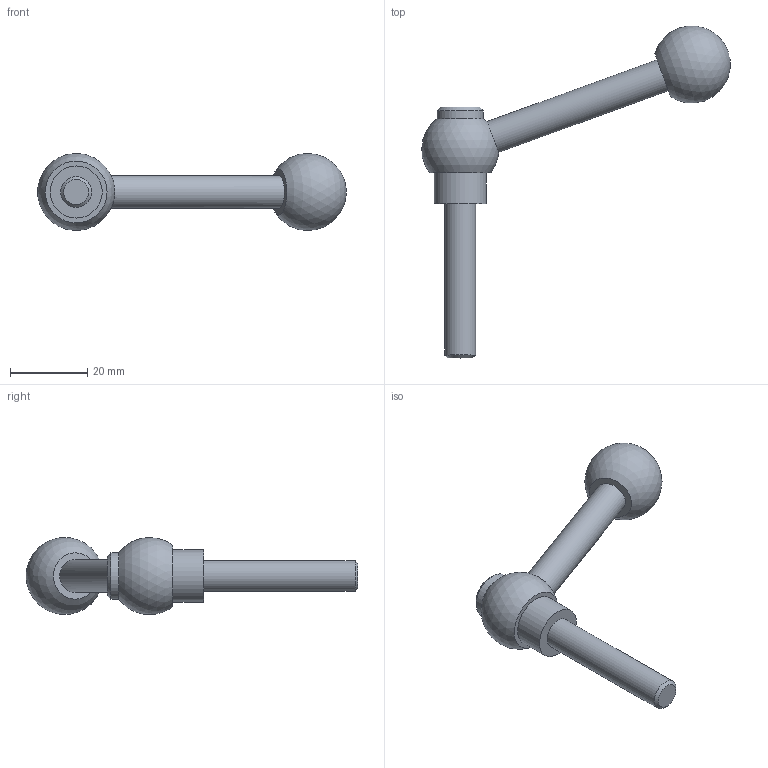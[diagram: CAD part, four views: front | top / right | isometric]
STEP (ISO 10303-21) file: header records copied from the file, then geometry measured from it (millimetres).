
FILE_DESCRIPTION( ( 'STEP AP203' ), '1' );
FILE_NAME( 'C:/Temp/Ganter_Step_05_03_2020/data/2_1/gn_6337_3/gn_6337_3_ms/gn_6337_3_ms_n/Adjustable clamping lever with bolt GN 6337.3-20-M8-40-N.stp', '2020-03-05T11:41:17', ( 'License CC BY-ND 4.0' ), ( 'CADENAS' ), ' ', 'PARTsolutions', ' ' );
FILE_SCHEMA( ( 'CONFIG_CONTROL_DESIGN' ) );
Length unit declared in the file: millimetre
Products named in the file (1): _Adjustable clamping lever with bolt GN 6337.3-20-M8-40-N
Bounding box: 79.86 x 86 x 19.99 mm (x, y, z)
Volume: 13809.1 mm3; surface area: 4995 mm2
Topology: 1 solids, 1 shells, 13 faces, 22 edges, 14 vertices
Faces by surface type: plane 5, cylinder 4, sphere 2, cone 2
Full cylindrical faces by diameter (mm): 8 x1, 8.5 x1, 12 x1, 13.5 x1
Entity records: 364 total; most frequent: CARTESIAN_POINT 104, DIRECTION 50, AXIS2_PLACEMENT_3D 25, EDGE_LOOP 24, ORIENTED_EDGE 24, FACE_OUTER_BOUND 18, ADVANCED_FACE 13, VERTEX_POINT 13
